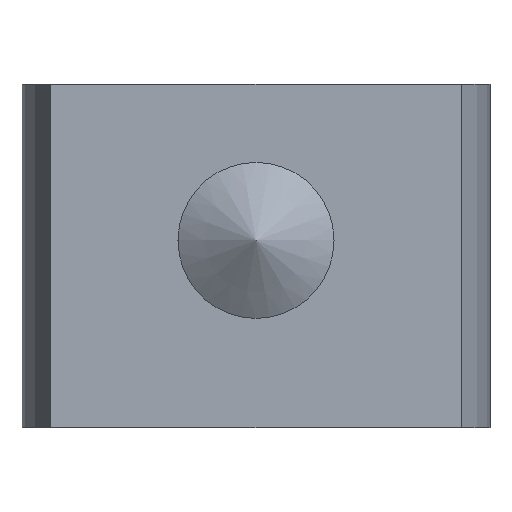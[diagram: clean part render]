
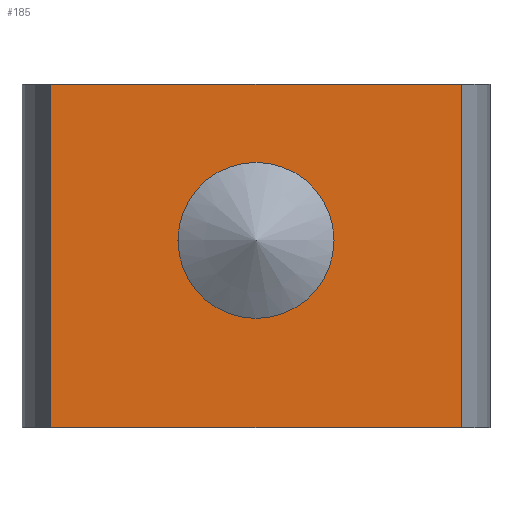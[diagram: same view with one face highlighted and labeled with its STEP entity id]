
A CAD part, left-side view. The second image highlights one B-rep face of the part: STEP entity #185.
In plain terms, the highlighted planar face has unit normal (-1, 0, 0).
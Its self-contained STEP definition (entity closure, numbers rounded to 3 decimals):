
#28=PLANE('',#272);
#34=FACE_OUTER_BOUND('',#45,.T.);
#45=EDGE_LOOP('',(#137,#138,#139,#140));
#56=LINE('',#380,#66);
#57=LINE('',#383,#67);
#58=LINE('',#385,#68);
#59=LINE('',#386,#69);
#66=VECTOR('',#312,10.);
#67=VECTOR('',#315,10.);
#68=VECTOR('',#316,10.);
#69=VECTOR('',#317,10.);
#92=VERTEX_POINT('',#376);
#93=VERTEX_POINT('',#378);
#94=VERTEX_POINT('',#382);
#95=VERTEX_POINT('',#384);
#111=EDGE_CURVE('',#92,#93,#56,.T.);
#112=EDGE_CURVE('',#92,#94,#57,.T.);
#113=EDGE_CURVE('',#95,#93,#58,.T.);
#114=EDGE_CURVE('',#94,#95,#59,.T.);
#137=ORIENTED_EDGE('',*,*,#112,.F.);
#138=ORIENTED_EDGE('',*,*,#111,.T.);
#139=ORIENTED_EDGE('',*,*,#113,.F.);
#140=ORIENTED_EDGE('',*,*,#114,.F.);
#185=ADVANCED_FACE('',(#34),#28,.T.);
#272=AXIS2_PLACEMENT_3D('',#381,#313,#314);
#312=DIRECTION('',(0.,0.,-1.));
#313=DIRECTION('center_axis',(-1.,0.,0.));
#314=DIRECTION('ref_axis',(0.,1.,0.));
#315=DIRECTION('',(0.,-1.,0.));
#316=DIRECTION('',(0.,1.,0.));
#317=DIRECTION('',(0.,0.,-1.));
#376=CARTESIAN_POINT('',(0.,6.58,0.));
#378=CARTESIAN_POINT('',(0.,6.58,-11.));
#380=CARTESIAN_POINT('',(0.,6.58,0.));
#381=CARTESIAN_POINT('Origin',(0.,-6.58,0.));
#382=CARTESIAN_POINT('',(0.,-6.58,0.));
#383=CARTESIAN_POINT('',(0.,6.58,0.));
#384=CARTESIAN_POINT('',(0.,-6.58,-11.));
#385=CARTESIAN_POINT('',(0.,6.58,-11.));
#386=CARTESIAN_POINT('',(0.,-6.58,0.));
